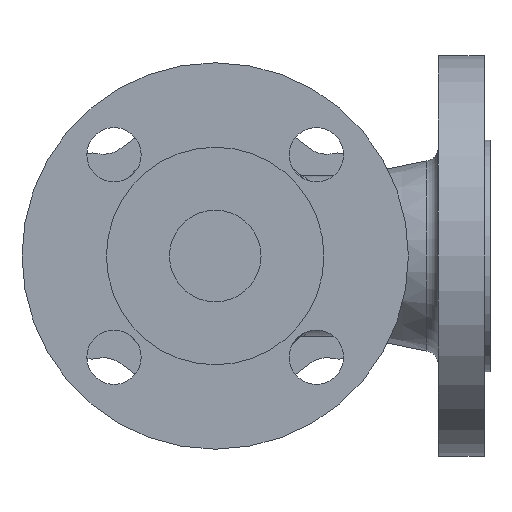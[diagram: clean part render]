
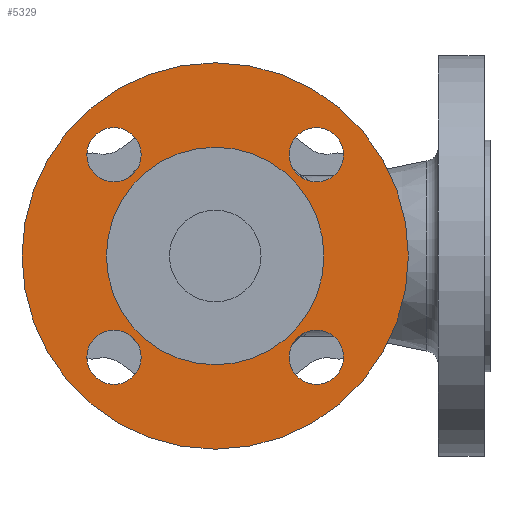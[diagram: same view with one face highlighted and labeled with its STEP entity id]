
A CAD part, front view. The second image highlights one B-rep face of the part: STEP entity #5329.
In plain terms, the highlighted planar face has unit normal (0, -1, 0).
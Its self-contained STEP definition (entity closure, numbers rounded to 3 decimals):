
#4 = CIRCLE ( 'NONE', #2855, 9.5 ) ;
#15 = CARTESIAN_POINT ( 'NONE',  ( -35.355, -90., 35.355 ) ) ;
#38 = ORIENTED_EDGE ( 'NONE', *, *, #1703, .F. ) ;
#41 = VERTEX_POINT ( 'NONE', #4775 ) ;
#74 = EDGE_LOOP ( 'NONE', ( #38, #573 ) ) ;
#153 = AXIS2_PLACEMENT_3D ( 'NONE', #15, #4731, #5793 ) ;
#183 = DIRECTION ( 'NONE',  ( 0., 1., 0. ) ) ;
#202 = VERTEX_POINT ( 'NONE', #4953 ) ;
#212 = CARTESIAN_POINT ( 'NONE',  ( -35.355, -90., 25.855 ) ) ;
#232 = DIRECTION ( 'NONE',  ( 0., -1., 0. ) ) ;
#247 = DIRECTION ( 'NONE',  ( 0., 0., 1. ) ) ;
#277 = CARTESIAN_POINT ( 'NONE',  ( 0., -90., 0. ) ) ;
#315 = CIRCLE ( 'NONE', #3861, 9.5 ) ;
#361 = VERTEX_POINT ( 'NONE', #5113 ) ;
#506 = EDGE_LOOP ( 'NONE', ( #5053, #4880 ) ) ;
#573 = ORIENTED_EDGE ( 'NONE', *, *, #5097, .F. ) ;
#617 = DIRECTION ( 'NONE',  ( 0., 0., -1. ) ) ;
#625 = AXIS2_PLACEMENT_3D ( 'NONE', #3541, #1204, #2649 ) ;
#913 = EDGE_CURVE ( 'NONE', #41, #361, #315, .T. ) ;
#920 = CIRCLE ( 'NONE', #5341, 9.5 ) ;
#924 = CARTESIAN_POINT ( 'NONE',  ( 35.355, -90., 44.855 ) ) ;
#988 = CARTESIAN_POINT ( 'NONE',  ( -35.355, -90., 44.855 ) ) ;
#1001 = CARTESIAN_POINT ( 'NONE',  ( 0., -90., -67.5 ) ) ;
#1069 = DIRECTION ( 'NONE',  ( 0., 0., 1. ) ) ;
#1079 = FACE_BOUND ( 'NONE', #3019, .T. ) ;
#1109 = FACE_BOUND ( 'NONE', #74, .T. ) ;
#1139 = AXIS2_PLACEMENT_3D ( 'NONE', #1936, #4828, #1069 ) ;
#1168 = PLANE ( 'NONE',  #4128 ) ;
#1198 = CIRCLE ( 'NONE', #4352, 9.5 ) ;
#1204 = DIRECTION ( 'NONE',  ( 0., -1., 0. ) ) ;
#1388 = CARTESIAN_POINT ( 'NONE',  ( 0., -90., -38. ) ) ;
#1520 = EDGE_CURVE ( 'NONE', #1923, #3451, #3565, .T. ) ;
#1574 = FACE_OUTER_BOUND ( 'NONE', #3137, .T. ) ;
#1602 = ORIENTED_EDGE ( 'NONE', *, *, #2497, .F. ) ;
#1607 = DIRECTION ( 'NONE',  ( 0., -1., 0. ) ) ;
#1664 = DIRECTION ( 'NONE',  ( 0., 1., 0. ) ) ;
#1703 = EDGE_CURVE ( 'NONE', #3849, #3742, #1198, .T. ) ;
#1747 = CARTESIAN_POINT ( 'NONE',  ( 35.355, -90., -35.355 ) ) ;
#1923 = VERTEX_POINT ( 'NONE', #212 ) ;
#1928 = EDGE_CURVE ( 'NONE', #5164, #202, #3363, .T. ) ;
#1936 = CARTESIAN_POINT ( 'NONE',  ( 0., -90., 0. ) ) ;
#1964 = EDGE_CURVE ( 'NONE', #202, #5164, #3157, .T. ) ;
#2004 = EDGE_CURVE ( 'NONE', #2894, #4265, #3269, .T. ) ;
#2009 = CARTESIAN_POINT ( 'NONE',  ( 35.355, -90., -35.355 ) ) ;
#2052 = CARTESIAN_POINT ( 'NONE',  ( 35.355, -90., 25.855 ) ) ;
#2085 = AXIS2_PLACEMENT_3D ( 'NONE', #277, #183, #2098 ) ;
#2098 = DIRECTION ( 'NONE',  ( 0., 0., 1. ) ) ;
#2134 = ORIENTED_EDGE ( 'NONE', *, *, #2760, .F. ) ;
#2157 = DIRECTION ( 'NONE',  ( 0., 1., 0. ) ) ;
#2234 = CARTESIAN_POINT ( 'NONE',  ( 35.355, -90., -25.855 ) ) ;
#2344 = CARTESIAN_POINT ( 'NONE',  ( 35.355, -90., 35.355 ) ) ;
#2360 = DIRECTION ( 'NONE',  ( 1., 0., 0. ) ) ;
#2374 = DIRECTION ( 'NONE',  ( -1., 0., 0. ) ) ;
#2416 = CARTESIAN_POINT ( 'NONE',  ( -35.355, -90., -35.355 ) ) ;
#2417 = VERTEX_POINT ( 'NONE', #4118 ) ;
#2497 = EDGE_CURVE ( 'NONE', #361, #41, #920, .T. ) ;
#2560 = EDGE_CURVE ( 'NONE', #4265, #2894, #4973, .T. ) ;
#2649 = DIRECTION ( 'NONE',  ( 0., 0., -1. ) ) ;
#2760 = EDGE_CURVE ( 'NONE', #3451, #1923, #5572, .T. ) ;
#2855 = AXIS2_PLACEMENT_3D ( 'NONE', #1747, #232, #3553 ) ;
#2890 = CARTESIAN_POINT ( 'NONE',  ( 35.355, -90., 35.355 ) ) ;
#2894 = VERTEX_POINT ( 'NONE', #5937 ) ;
#2946 = FACE_BOUND ( 'NONE', #3204, .T. ) ;
#3010 = CARTESIAN_POINT ( 'NONE',  ( -38., -90., 0. ) ) ;
#3019 = EDGE_LOOP ( 'NONE', ( #1602, #3308 ) ) ;
#3033 = ORIENTED_EDGE ( 'NONE', *, *, #1964, .T. ) ;
#3137 = EDGE_LOOP ( 'NONE', ( #5100, #4458 ) ) ;
#3157 = CIRCLE ( 'NONE', #3950, 38. ) ;
#3204 = EDGE_LOOP ( 'NONE', ( #4472, #2134 ) ) ;
#3233 = EDGE_CURVE ( 'NONE', #4532, #2417, #4977, .T. ) ;
#3269 = CIRCLE ( 'NONE', #5741, 67.5 ) ;
#3308 = ORIENTED_EDGE ( 'NONE', *, *, #913, .F. ) ;
#3363 = CIRCLE ( 'NONE', #2085, 38. ) ;
#3451 = VERTEX_POINT ( 'NONE', #988 ) ;
#3479 = DIRECTION ( 'NONE',  ( 0., 0., 1. ) ) ;
#3541 = CARTESIAN_POINT ( 'NONE',  ( -35.355, -90., 35.355 ) ) ;
#3553 = DIRECTION ( 'NONE',  ( 0., 0., 1. ) ) ;
#3565 = CIRCLE ( 'NONE', #625, 9.5 ) ;
#3742 = VERTEX_POINT ( 'NONE', #924 ) ;
#3848 = DIRECTION ( 'NONE',  ( 0., -1., 0. ) ) ;
#3849 = VERTEX_POINT ( 'NONE', #2052 ) ;
#3861 = AXIS2_PLACEMENT_3D ( 'NONE', #2416, #5261, #5700 ) ;
#3946 = CARTESIAN_POINT ( 'NONE',  ( 0., -90., 0. ) ) ;
#3950 = AXIS2_PLACEMENT_3D ( 'NONE', #5493, #2157, #247 ) ;
#4118 = CARTESIAN_POINT ( 'NONE',  ( 35.355, -90., -44.855 ) ) ;
#4128 = AXIS2_PLACEMENT_3D ( 'NONE', #3010, #3848, #617 ) ;
#4133 = DIRECTION ( 'NONE',  ( 0., -1., 0. ) ) ;
#4191 = AXIS2_PLACEMENT_3D ( 'NONE', #2890, #5216, #5658 ) ;
#4265 = VERTEX_POINT ( 'NONE', #1001 ) ;
#4292 = AXIS2_PLACEMENT_3D ( 'NONE', #2009, #1607, #3479 ) ;
#4352 = AXIS2_PLACEMENT_3D ( 'NONE', #2344, #4133, #2374 ) ;
#4458 = ORIENTED_EDGE ( 'NONE', *, *, #2560, .F. ) ;
#4472 = ORIENTED_EDGE ( 'NONE', *, *, #1520, .F. ) ;
#4532 = VERTEX_POINT ( 'NONE', #2234 ) ;
#4731 = DIRECTION ( 'NONE',  ( 0., -1., 0. ) ) ;
#4775 = CARTESIAN_POINT ( 'NONE',  ( -35.355, -90., -25.855 ) ) ;
#4828 = DIRECTION ( 'NONE',  ( 0., 1., 0. ) ) ;
#4845 = ORIENTED_EDGE ( 'NONE', *, *, #1928, .T. ) ;
#4880 = ORIENTED_EDGE ( 'NONE', *, *, #3233, .F. ) ;
#4953 = CARTESIAN_POINT ( 'NONE',  ( 0., -90., 38. ) ) ;
#4956 = EDGE_LOOP ( 'NONE', ( #3033, #4845 ) ) ;
#4973 = CIRCLE ( 'NONE', #1139, 67.5 ) ;
#4977 = CIRCLE ( 'NONE', #4292, 9.5 ) ;
#5053 = ORIENTED_EDGE ( 'NONE', *, *, #5656, .F. ) ;
#5097 = EDGE_CURVE ( 'NONE', #3742, #3849, #5975, .T. ) ;
#5100 = ORIENTED_EDGE ( 'NONE', *, *, #2004, .F. ) ;
#5113 = CARTESIAN_POINT ( 'NONE',  ( -35.355, -90., -44.855 ) ) ;
#5164 = VERTEX_POINT ( 'NONE', #1388 ) ;
#5216 = DIRECTION ( 'NONE',  ( 0., -1., 0. ) ) ;
#5261 = DIRECTION ( 'NONE',  ( 0., -1., 0. ) ) ;
#5307 = FACE_BOUND ( 'NONE', #506, .T. ) ;
#5329 = ADVANCED_FACE ( 'NONE', ( #1109, #5307, #1079, #2946, #5743, #1574 ), #1168, .T. ) ;
#5341 = AXIS2_PLACEMENT_3D ( 'NONE', #5641, #5678, #2360 ) ;
#5493 = CARTESIAN_POINT ( 'NONE',  ( 0., -90., 0. ) ) ;
#5572 = CIRCLE ( 'NONE', #153, 9.5 ) ;
#5641 = CARTESIAN_POINT ( 'NONE',  ( -35.355, -90., -35.355 ) ) ;
#5656 = EDGE_CURVE ( 'NONE', #2417, #4532, #4, .T. ) ;
#5658 = DIRECTION ( 'NONE',  ( -1., 0., 0. ) ) ;
#5678 = DIRECTION ( 'NONE',  ( 0., -1., 0. ) ) ;
#5700 = DIRECTION ( 'NONE',  ( 1., 0., 0. ) ) ;
#5741 = AXIS2_PLACEMENT_3D ( 'NONE', #3946, #1664, #5835 ) ;
#5743 = FACE_BOUND ( 'NONE', #4956, .T. ) ;
#5793 = DIRECTION ( 'NONE',  ( 0., 0., -1. ) ) ;
#5835 = DIRECTION ( 'NONE',  ( 0., 0., 1. ) ) ;
#5937 = CARTESIAN_POINT ( 'NONE',  ( 0., -90., 67.5 ) ) ;
#5975 = CIRCLE ( 'NONE', #4191, 9.5 ) ;
